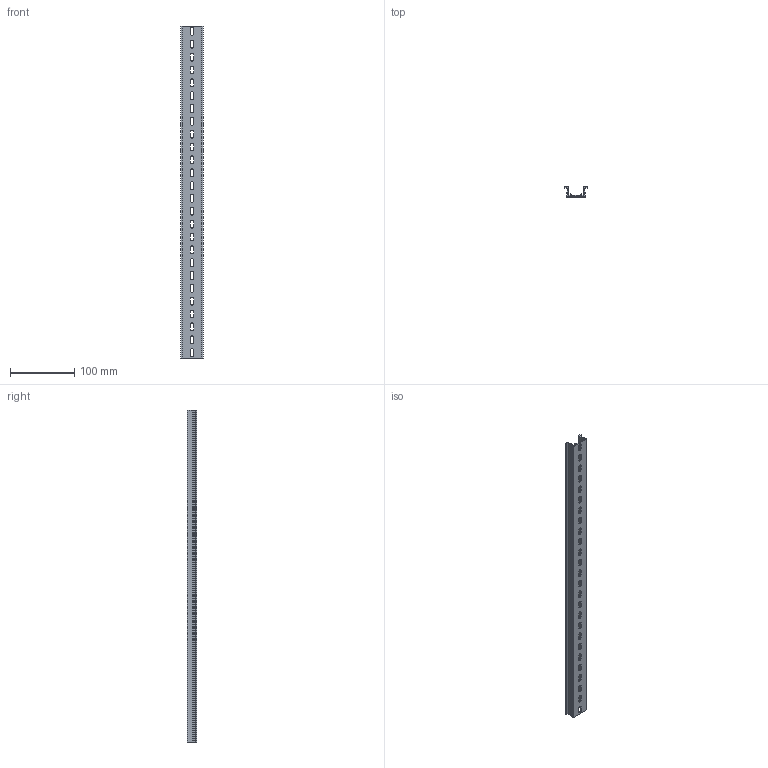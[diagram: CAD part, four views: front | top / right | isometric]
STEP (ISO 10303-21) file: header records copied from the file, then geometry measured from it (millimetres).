
FILE_DESCRIPTION(/* description */ (''),/* implementation_level */ '2;1');
FILE_NAME(/* name */ '22648-(TKB KD-26)HP 3D.stp',/* time_stamp */ '2024-12-05T14:06:24+09:00',/* author */ ('usercadg104'),/* organization */ (''),/* preprocessor_version */ 'ST-DEVELOPER v19.2',/* originating_system */ 'Autodesk Inventor 2023',/* authorisation */ '');
FILE_SCHEMA (('CONFIG_CONTROL_DESIGN'));
Length unit declared in the file: millimetre
Products named in the file (1): TKB KD-3(林)
Bounding box: 35 x 15 x 517 mm (x, y, z)
Volume: 60482.3 mm3; surface area: 69929.2 mm2
Topology: 1 solids, 1 shells, 144 faces, 426 edges, 284 vertices
Faces by surface type: plane 88, cylinder 56
Entity records: 4969 total; most frequent: CARTESIAN_POINT 855, ORIENTED_EDGE 852, DIRECTION 828, EDGE_CURVE 426, LINE 314, VECTOR 314, VERTEX_POINT 284, AXIS2_PLACEMENT_3D 257
